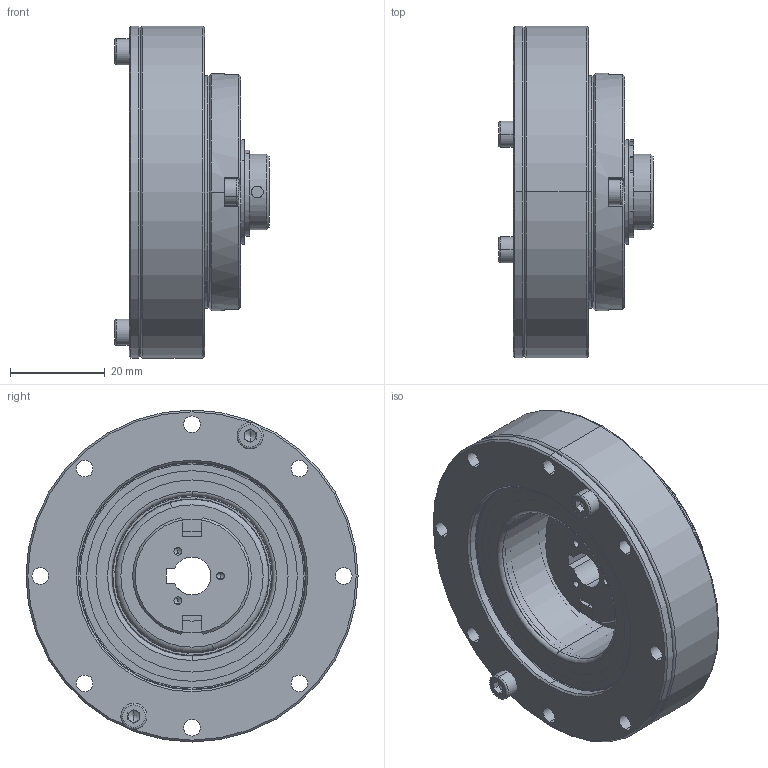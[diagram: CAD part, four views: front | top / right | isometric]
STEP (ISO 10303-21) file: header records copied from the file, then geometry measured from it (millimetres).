
FILE_DESCRIPTION (( 'STEP AP214' ), '1' );
FILE_NAME ('SHF-14-I.STEP', '2021-07-04T01:18:10', ( 'PC' ), ( 'Microsoft' ), 'SwSTEP 2.0', 'SolidWorks 2016', '' );
FILE_SCHEMA (( 'AUTOMOTIVE_DESIGN' ));
Length unit declared in the file: millimetre
Products named in the file (22): 蝠脫粣創-STRU-14-70-135X朴70-V1; hexagon socket head cap screws gb_GB_FASTENER_SCREWS_HSHCS M2X5-C; 14眄璃; 交叉轴承隔块-14-70-反向-V0; 蝠脫粣創路輸-14-70-V0; O形密封圈-Φ53XΦ18; 蝠脫粣創-幗赽-朴3; 蝠脫粣創-蚐猾-STRU-14-70; 交叉轴承-内圈-STRU-14-70-V1; 交叉轴承-外圈-STRU-14-70; 荎秶試謫-STXB-14050; 14-100疏楷汜ん郪璃_蕼偞; 英制柔轮-STXB-14050; circlips for shaft--type a large gb_GB_CONNECTING_PIECE_RING_RRA 16; STXB-T14-100-P04_蕼偞; SHF-14-I; 14柔性轴承; STXB-T14-P05_蕼偞; STXB-T14-P03_蕼偞; STXB-T14-P02_蕼偞; STXB-T14-P01_蕼偞; hexagon socket head cap screws gb_GB_FASTENER_SCREWS_HSHCS M3X8-C
Assembly tree (103 placements, depth 3):
  SHF-14-I
    英制柔轮-STXB-14050
    荎秶試謫-STXB-14050
    蝠脫粣創-STRU-14-70-135X朴70-V1
      交叉轴承-外圈-STRU-14-70
      交叉轴承-内圈-STRU-14-70-V1
      蝠脫粣創-蚐猾-STRU-14-70
      蝠脫粣創-幗赽-朴3  x40
      O形密封圈-Φ53XΦ18
      蝠脫粣創路輸-14-70-V0  x20
      交叉轴承隔块-14-70-反向-V0  x20
      14眄璃
      hexagon socket head cap screws gb_GB_FASTENER_SCREWS_HSHCS M2X5-C
    hexagon socket head cap screws gb_GB_FASTENER_SCREWS_HSHCS M3X8-C  x6
    14-100疏楷汜ん郪璃_蕼偞
      STXB-T14-P01_蕼偞
      STXB-T14-P02_蕼偞
      STXB-T14-P03_蕼偞
      STXB-T14-P05_蕼偞
      14柔性轴承
      STXB-T14-100-P04_蕼偞
      circlips for shaft--type a large gb_GB_CONNECTING_PIECE_RING_RRA 16
Bounding box: 32.53 x 70 x 70 mm (x, y, z)
Volume: 51988.7 mm3; surface area: 51521.3 mm2
Topology: 101 solids, 101 shells, 1238 faces, 2637 edges, 1601 vertices
Faces by surface type: plane 460, cylinder 413, cone 317, torus 42, bspline 6
Entity records: 20937 total; most frequent: CARTESIAN_POINT 5257, DIRECTION 3249, ORIENTED_EDGE 2630, AXIS2_PLACEMENT_3D 1338, EDGE_CURVE 1315, VERTEX_POINT 820, EDGE_LOOP 707, CIRCLE 663
